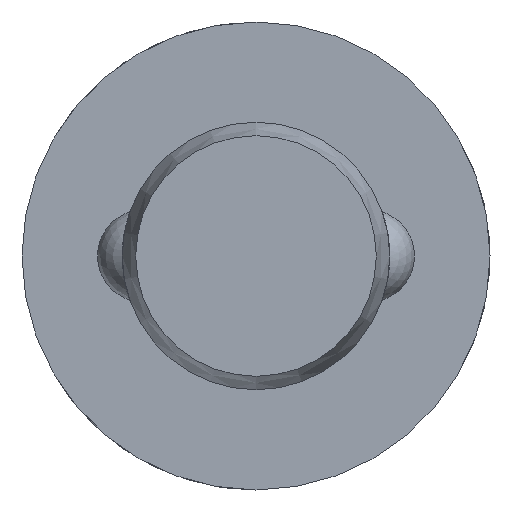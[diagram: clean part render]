
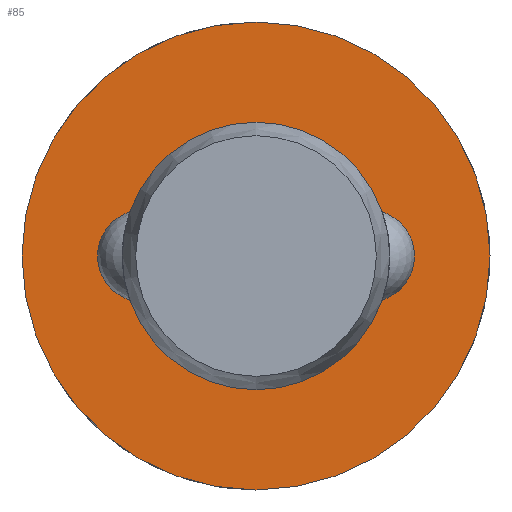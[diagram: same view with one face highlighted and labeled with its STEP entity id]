
A CAD part, left-side view. The second image highlights one B-rep face of the part: STEP entity #85.
In plain terms, the highlighted planar face has unit normal (-1, 0, 0).
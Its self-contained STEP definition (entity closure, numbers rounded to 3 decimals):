
#85 = ADVANCED_FACE( '', ( #130, #131 ), #132, .F. );
#130 = FACE_OUTER_BOUND( '', #200, .T. );
#131 = FACE_BOUND( '', #201, .T. );
#132 = PLANE( '', #202 );
#200 = EDGE_LOOP( '', ( #315 ) );
#201 = EDGE_LOOP( '', ( #316 ) );
#202 = AXIS2_PLACEMENT_3D( '', #317, #318, #319 );
#315 = ORIENTED_EDGE( '', *, *, #458, .F. );
#316 = ORIENTED_EDGE( '', *, *, #455, .T. );
#317 = CARTESIAN_POINT( '', ( 58.2, 4., 0. ) );
#318 = DIRECTION( '', ( 1., 0., 0. ) );
#319 = DIRECTION( '', ( 0., 0., -1. ) );
#455 = EDGE_CURVE( '', #528, #528, #529, .T. );
#458 = EDGE_CURVE( '', #534, #534, #535, .T. );
#528 = VERTEX_POINT( '', #732 );
#529 = CIRCLE( '', #733, 4. );
#534 = VERTEX_POINT( '', #820 );
#535 = CIRCLE( '', #821, 7. );
#732 = CARTESIAN_POINT( '', ( 58.2, 0., -4. ) );
#733 = AXIS2_PLACEMENT_3D( '', #898, #899, #900 );
#820 = CARTESIAN_POINT( '', ( 58.2, 0., -7. ) );
#821 = AXIS2_PLACEMENT_3D( '', #901, #902, #903 );
#898 = CARTESIAN_POINT( '', ( 58.2, 0., 0. ) );
#899 = DIRECTION( '', ( 1., 0., 0. ) );
#900 = DIRECTION( '', ( 0., 0., -1. ) );
#901 = CARTESIAN_POINT( '', ( 58.2, 0., 0. ) );
#902 = DIRECTION( '', ( 1., 0., 0. ) );
#903 = DIRECTION( '', ( 0., 0., -1. ) );
